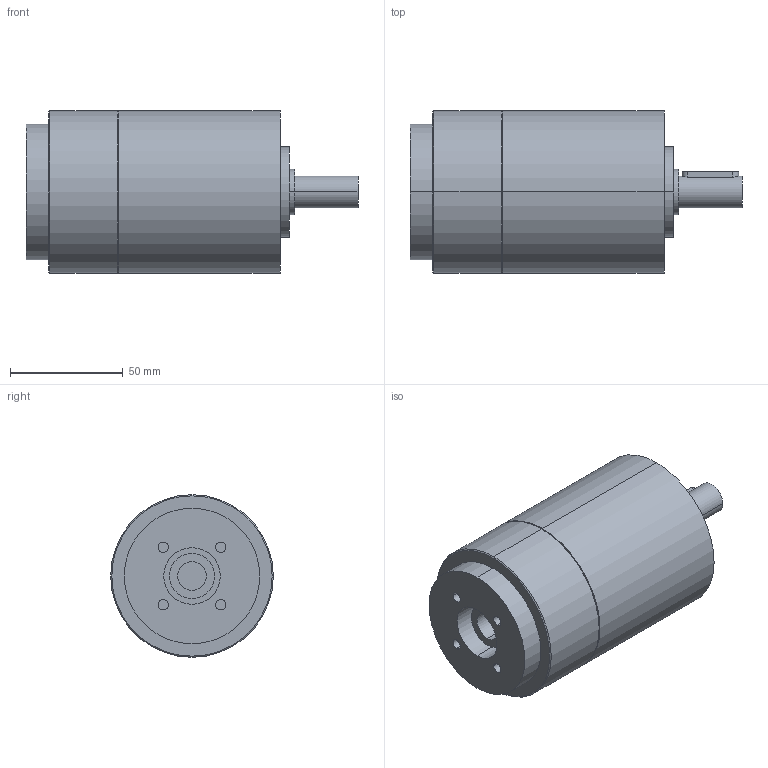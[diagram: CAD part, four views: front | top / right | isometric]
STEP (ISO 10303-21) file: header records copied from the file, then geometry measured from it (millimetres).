
FILE_DESCRIPTION(('CoCreate Modeling STEP Export'),'2;1');
FILE_NAME('GPT75_ig-9-12-16-20-25-28-35-40-50-70-100_14_B14T_12.7_P19.stp','2014-08-27T13:09:11',(''),(''),'CoCreate Modeling STEP processor for AP214 (Solid Model)','CoCreate Modeling 16.00C 25-Feb-2009 (C) Parametric Technology GmbH','');
FILE_SCHEMA(('AUTOMOTIVE_DESIGN { 1 0 10303 214 1 1 1 1 }'));
Length unit declared in the file: millimetre
Products named in the file (2): GPT75_ig-9-12-16-20-25-28-35-40-50-70-100_14_B14T_12.7_P19
Assembly tree (1 placements, depth 2):
  GPT75_ig-9-12-16-20-25-28-35-40-50-70-100_14_B14T_12.7_P19
    GPT75_ig-9-12-16-20-25-28-35-40-50-70-100_14_B14T_12.7_P19
Bounding box: 147 x 72 x 72 mm (x, y, z)
Volume: 446406.1 mm3; surface area: 38990.9 mm2
Topology: 1 solids, 1 shells, 64 faces, 142 edges, 97 vertices
Faces by surface type: cylinder 38, plane 22, cone 4
Entity records: 1878 total; most frequent: CARTESIAN_POINT 614, ORIENTED_EDGE 284, DIRECTION 210, EDGE_CURVE 142, VERTEX_POINT 97, AXIS2_PLACEMENT_3D 81, EDGE_LOOP 81, FACE_OUTER_BOUND 64
